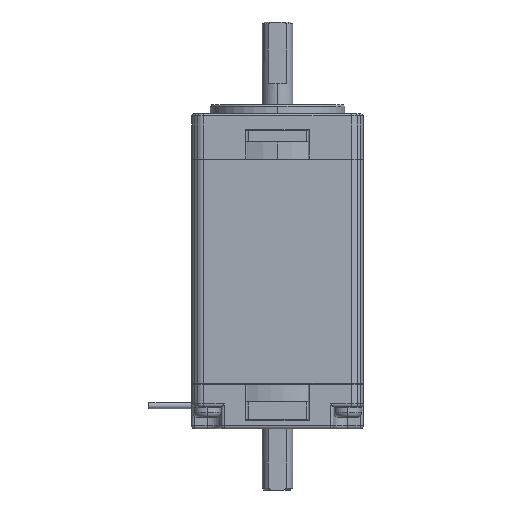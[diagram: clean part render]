
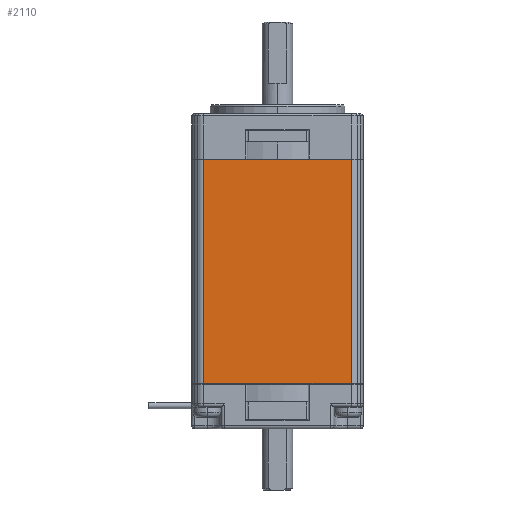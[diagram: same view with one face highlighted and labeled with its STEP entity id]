
A CAD part, left-side view. The second image highlights one B-rep face of the part: STEP entity #2110.
In plain terms, the highlighted planar face has unit normal (-1, 0, 0).
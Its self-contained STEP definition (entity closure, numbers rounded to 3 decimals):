
#997 = LINE ( 'NONE', #2948, #17069 ) ;
#1017 = LINE ( 'NONE', #3054, #16977 ) ;
#1018 = LINE ( 'NONE', #3059, #16974 ) ;
#1019 = LINE ( 'NONE', #3061, #16972 ) ;
#1370 = EDGE_CURVE ( 'NONE', #16184, #16157, #997, .T. ) ;
#1412 = EDGE_CURVE ( 'NONE', #16196, #15253, #1017, .T. ) ;
#1414 = EDGE_CURVE ( 'NONE', #16184, #16196, #1018, .T. ) ;
#1415 = EDGE_CURVE ( 'NONE', #15253, #16157, #1019, .T. ) ;
#2110 = ADVANCED_FACE ( 'NONE', ( #19364 ), #8381, .T. ) ;
#2948 = CARTESIAN_POINT ( 'NONE',  ( -14., 12.032, -36.75 ) ) ;
#2949 = DIRECTION ( 'NONE',  ( 0., 0., 1. ) ) ;
#3054 = CARTESIAN_POINT ( 'NONE',  ( -14., -12.032, -36.75 ) ) ;
#3055 = DIRECTION ( 'NONE',  ( 0., 0., 1. ) ) ;
#3059 = CARTESIAN_POINT ( 'NONE',  ( -14., 12.032, -36.65 ) ) ;
#3060 = DIRECTION ( 'NONE',  ( 0., -1., 0. ) ) ;
#3061 = CARTESIAN_POINT ( 'NONE',  ( -14., 12.032, -0.05 ) ) ;
#3062 = DIRECTION ( 'NONE',  ( 0., 1., 0. ) ) ;
#8381 = PLANE ( 'NONE',  #10543 ) ;
#8382 = CARTESIAN_POINT ( 'NONE',  ( -14., 12.032, -36.75 ) ) ;
#8383 = DIRECTION ( 'NONE',  ( -1., 0., 0. ) ) ;
#8384 = DIRECTION ( 'NONE',  ( 0., 0., 1. ) ) ;
#10543 = AXIS2_PLACEMENT_3D ( 'NONE', #8382, #8383, #8384 ) ;
#13515 = CARTESIAN_POINT ( 'NONE',  ( -14., -12.032, -0.05 ) ) ;
#14104 = CARTESIAN_POINT ( 'NONE',  ( -14., 12.032, -0.05 ) ) ;
#14131 = CARTESIAN_POINT ( 'NONE',  ( -14., 12.032, -36.65 ) ) ;
#14143 = CARTESIAN_POINT ( 'NONE',  ( -14., -12.032, -36.65 ) ) ;
#15253 = VERTEX_POINT ( 'NONE', #13515 ) ;
#16157 = VERTEX_POINT ( 'NONE', #14104 ) ;
#16184 = VERTEX_POINT ( 'NONE', #14131 ) ;
#16196 = VERTEX_POINT ( 'NONE', #14143 ) ;
#16972 = VECTOR ( 'NONE', #3062, 1000. ) ;
#16974 = VECTOR ( 'NONE', #3060, 1000. ) ;
#16977 = VECTOR ( 'NONE', #3055, 1000. ) ;
#17069 = VECTOR ( 'NONE', #2949, 1000. ) ;
#17309 = EDGE_LOOP ( 'NONE', ( #18193, #18194, #18192, #18195 ) ) ;
#18192 = ORIENTED_EDGE ( 'NONE', *, *, #1412, .T. ) ;
#18193 = ORIENTED_EDGE ( 'NONE', *, *, #1370, .F. ) ;
#18194 = ORIENTED_EDGE ( 'NONE', *, *, #1414, .T. ) ;
#18195 = ORIENTED_EDGE ( 'NONE', *, *, #1415, .T. ) ;
#19364 = FACE_OUTER_BOUND ( 'NONE', #17309, .T. ) ;
